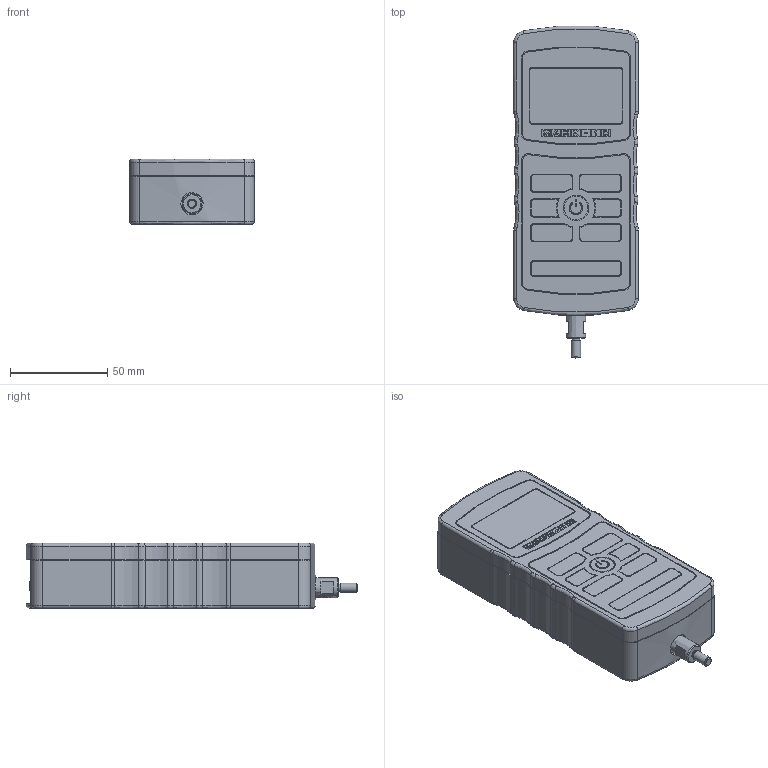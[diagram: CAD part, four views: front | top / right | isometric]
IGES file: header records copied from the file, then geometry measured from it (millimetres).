
Global section: file name: M7; native system: Autodesk RealDWG; preprocessor: Autodesk Translation Framework DWG producer (atf_dwg_producer); organization: unknown; date: 20240326.161655; units: inch
Bounding box: 64.26 x 171.02 x 33.84 mm (x, y, z)
Volume: 305881.9 mm3; surface area: 38046.5 mm2
Topology: 1 solids, 4 shells, 755 faces, 1910 edges, 1255 vertices
Faces by surface type: bspline 755
